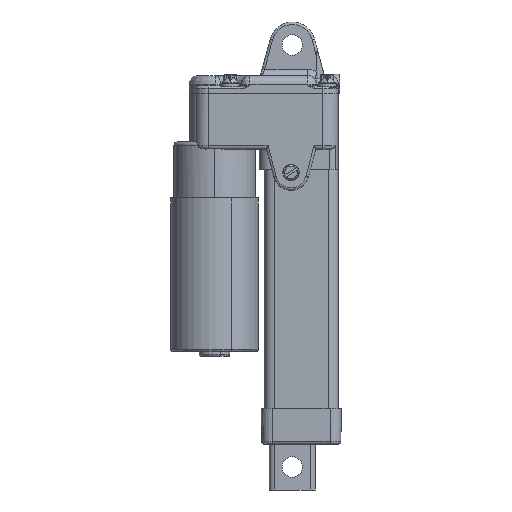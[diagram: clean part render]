
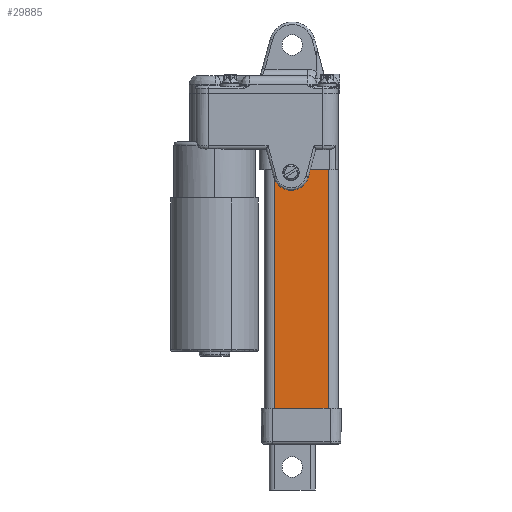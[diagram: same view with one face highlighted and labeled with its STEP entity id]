
A CAD part, left-side view. The second image highlights one B-rep face of the part: STEP entity #29885.
In plain terms, the highlighted planar face has unit normal (-1, 0, 0).
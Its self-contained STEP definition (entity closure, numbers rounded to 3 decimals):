
#24118 = DIRECTION ( 'NONE',  ( 0., 0., 1. ) ) ;
#24119 = VECTOR ( 'NONE', #24118, 1000. ) ;
#24120 = CARTESIAN_POINT ( 'NONE',  ( -12.5, 10.5, 113.5 ) ) ;
#24121 = LINE ( 'NONE', #24120, #24119 ) ;
#24122 = CARTESIAN_POINT ( 'NONE',  ( -12.5, 10.5, 0. ) ) ;
#24379 = CARTESIAN_POINT ( 'NONE',  ( -12.5, -10.5, 0. ) ) ;
#24387 = CARTESIAN_POINT ( 'NONE',  ( -12.5, 10.5, 113.5 ) ) ;
#24423 = DIRECTION ( 'NONE',  ( 0., -1., 0. ) ) ;
#24424 = VECTOR ( 'NONE', #24423, 1000. ) ;
#24425 = CARTESIAN_POINT ( 'NONE',  ( -12.5, 10.5, 113.5 ) ) ;
#24426 = LINE ( 'NONE', #24425, #24424 ) ;
#24427 = CARTESIAN_POINT ( 'NONE',  ( -12.5, -10.5, 113.5 ) ) ;
#24428 = DIRECTION ( 'NONE',  ( 0., 0., -1. ) ) ;
#24429 = VECTOR ( 'NONE', #24428, 1000. ) ;
#24430 = CARTESIAN_POINT ( 'NONE',  ( -12.5, -10.5, 113.5 ) ) ;
#24431 = LINE ( 'NONE', #24430, #24429 ) ;
#24555 = DIRECTION ( 'NONE',  ( 0., 1., 0. ) ) ;
#24556 = VECTOR ( 'NONE', #24555, 1000. ) ;
#24557 = CARTESIAN_POINT ( 'NONE',  ( -12.5, 10.5, 0. ) ) ;
#24558 = LINE ( 'NONE', #24557, #24556 ) ;
#24569 = DIRECTION ( 'NONE',  ( 0., 1., 0. ) ) ;
#24570 = DIRECTION ( 'NONE',  ( 1., 0., 0. ) ) ;
#24571 = CARTESIAN_POINT ( 'NONE',  ( -12.5, 10.5, 113.5 ) ) ;
#24572 = AXIS2_PLACEMENT_3D ( 'NONE', #24571, #24570, #24569 ) ;
#24573 = PLANE ( 'NONE',  #24572 ) ;
#24574 = FACE_OUTER_BOUND ( 'NONE', #29890, .T. ) ;
#29630 = VERTEX_POINT ( 'NONE', #24122 ) ;
#29632 = EDGE_CURVE ( 'NONE', #29630, #29763, #24121, .T. ) ;
#29763 = VERTEX_POINT ( 'NONE', #24387 ) ;
#29769 = VERTEX_POINT ( 'NONE', #24379 ) ;
#29777 = EDGE_CURVE ( 'NONE', #29778, #29769, #24431, .T. ) ;
#29778 = VERTEX_POINT ( 'NONE', #24427 ) ;
#29780 = EDGE_CURVE ( 'NONE', #29763, #29778, #24426, .T. ) ;
#29857 = EDGE_CURVE ( 'NONE', #29769, #29630, #24558, .T. ) ;
#29872 = ORIENTED_EDGE ( 'NONE', *, *, #29780, .F. ) ;
#29885 = ADVANCED_FACE ( 'NONE', ( #24574 ), #24573, .F. ) ;
#29890 = EDGE_LOOP ( 'NONE', ( #29891, #29872, #29897, #29898 ) ) ;
#29891 = ORIENTED_EDGE ( 'NONE', *, *, #29777, .F. ) ;
#29897 = ORIENTED_EDGE ( 'NONE', *, *, #29632, .F. ) ;
#29898 = ORIENTED_EDGE ( 'NONE', *, *, #29857, .F. ) ;
